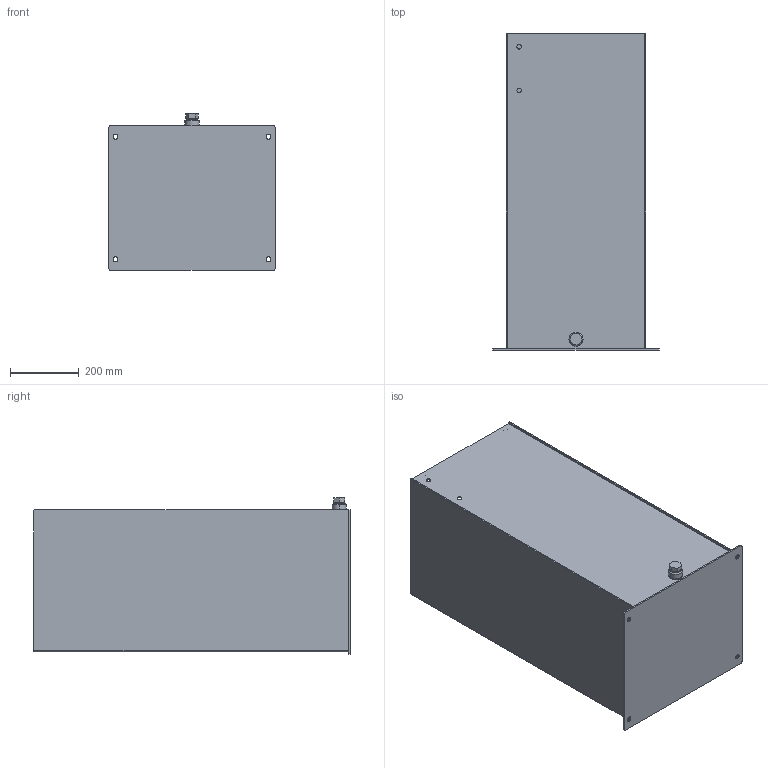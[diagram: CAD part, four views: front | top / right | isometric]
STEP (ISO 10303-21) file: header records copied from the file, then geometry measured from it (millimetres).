
FILE_DESCRIPTION (( 'STEP AP214' ), '1' );
FILE_NAME ('TV-149.STEP', '2020-02-04T13:31:40', ( '' ), ( '' ), 'SwSTEP 2.0', 'SolidWorks 2013', '' );
FILE_SCHEMA (( 'AUTOMOTIVE_DESIGN' ));
Length unit declared in the file: inch
Products named in the file (7): TV-149BTM; #12 SAE DRAIN; TV-GST; #12 SAE PLUG; TV-149; TV-149FR; TV-149BDY
Assembly tree (9 placements, depth 2):
  TV-149
    TV-149BTM
    TV-149FR
    TV-149BDY
    TV-GST  x4
    #12 SAE DRAIN
    #12 SAE PLUG
Bounding box: 482.6 x 919.16 x 454.02 mm (x, y, z)
Volume: 6092554.4 mm3; surface area: 3426619.8 mm2
Topology: 9 solids, 9 shells, 115 faces, 262 edges, 168 vertices
Faces by surface type: plane 71, cylinder 38, cone 6
Entity records: 2990 total; most frequent: DIRECTION 486, CARTESIAN_POINT 443, ORIENTED_EDGE 416, EDGE_CURVE 208, AXIS2_PLACEMENT_3D 175, LINE 136, VECTOR 136, VERTEX_POINT 132
